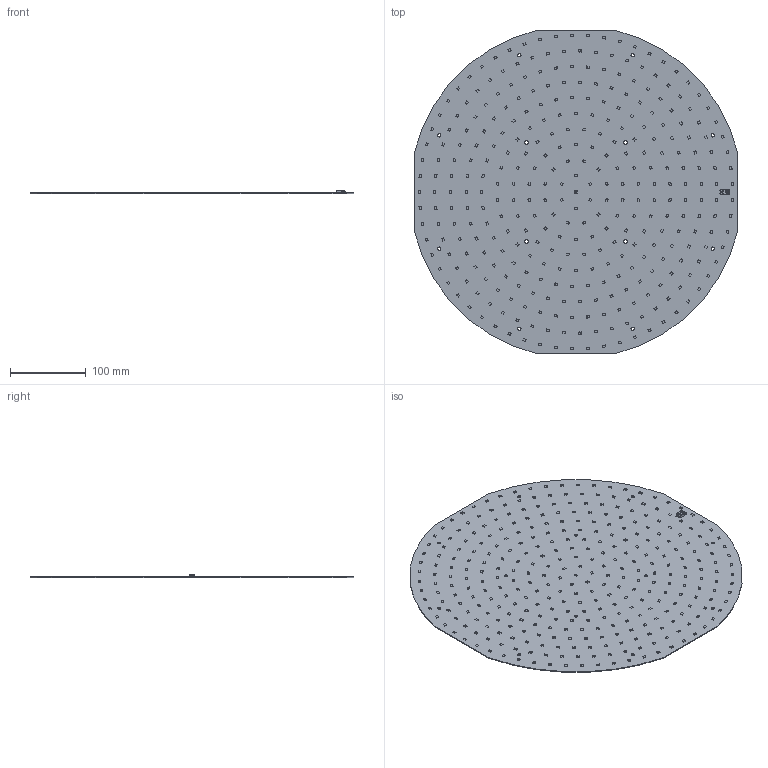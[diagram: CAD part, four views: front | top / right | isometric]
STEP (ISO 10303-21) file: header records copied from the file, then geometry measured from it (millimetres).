
FILE_DESCRIPTION(/* description */ ('Unknown'),/* implementation_level */ '2;1');
FILE_NAME(/* name */ 'RdLED 440mm 5000lm FLAT G1 sh-000 2020-05-21',/* time_stamp */ '2020-05-21T12:57:06+02:00',/* author */ ('Unknown'),/* organization */ ('Unknown'),/* preprocessor_version */ 'ST-DEVELOPER v16.7',/* originating_system */ 'Solid Edge',/* authorisation */ 'Unknown');
FILE_SCHEMA (('AUTOMOTIVE_DESIGN {1 0 10303 214 3 1 1}'));
Products named in the file (1): RdLED 440mm 3D2
Bounding box: 428 x 428 x 4.45 mm (x, y, z)
Volume: 153312.1 mm3; surface area: 306354.7 mm2
Topology: 1 solids, 1 shells, 5801 faces, 15218 edges, 10090 vertices
Faces by surface type: plane 5541, cylinder 126, bspline 87, cone 26, torus 11, sphere 10
Full cylindrical faces by diameter (mm): 4.3 x12
Entity records: 217720 total; most frequent: CARTESIAN_POINT 34544, ORIENTED_EDGE 30374, DIRECTION 26528, EDGE_CURVE 15187, LINE 14624, VECTOR 14624, VERTEX_POINT 10085, EDGE_LOOP 6528
